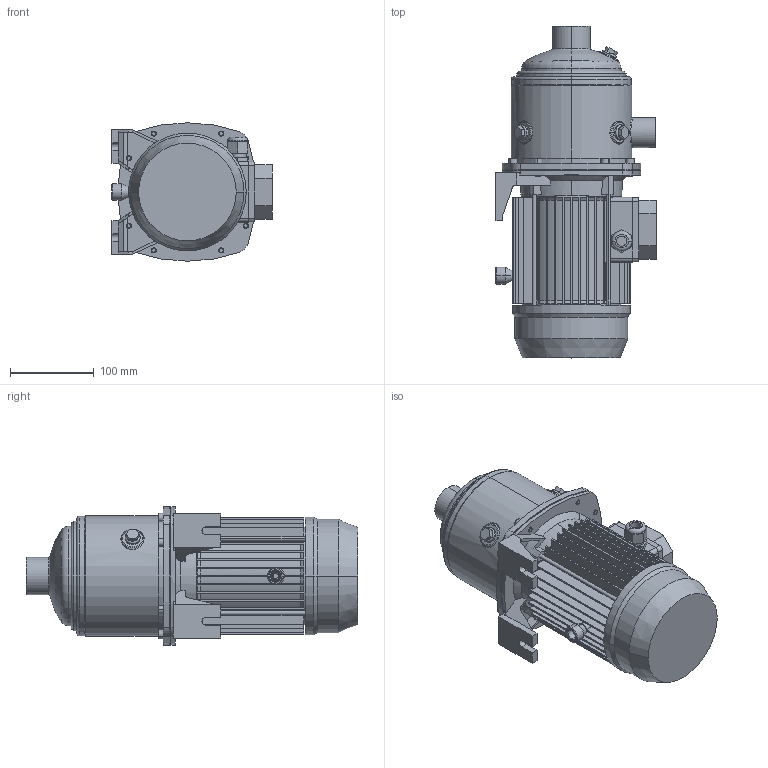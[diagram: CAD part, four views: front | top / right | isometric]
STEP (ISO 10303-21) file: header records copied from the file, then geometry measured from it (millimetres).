
FILE_DESCRIPTION((''),'2;1');
FILE_NAME('MATRIX_5-4T_0_9_IE3_ASM','2018-06-01T',('rosa'),('"Ebara Pumps Europe +39.444.706811"'),'PRO/ENGINEER BY PARAMETRIC TECHNOLOGY CORPORATION, 2012130','PRO/ENGINEER BY PARAMETRIC TECHNOLOGY CORPORATION, 2012130','');
FILE_SCHEMA(('AUTOMOTIVE_DESIGN { 1 0 10303 214 1 1 1 1 }'));
Length unit declared in the file: millimetre
Products named in the file (5): CORPO_POMPA_MATRIX_5-4; SUPPORTO_MATRIX_MEC_71; MEC_71X110_IE2; 72228; MATRIX_5-4T_0_9_IE3_ASM
Assembly tree (4 placements, depth 2):
  MATRIX_5-4T_0_9_IE3_ASM
    CORPO_POMPA_MATRIX_5-4
    SUPPORTO_MATRIX_MEC_71
    MEC_71X110_IE2
    72228
Bounding box: 191 x 395.8 x 165 mm (x, y, z)
Volume: 4011582.8 mm3; surface area: 493703.9 mm2
Topology: 4 solids, 4 shells, 724 faces, 1741 edges, 1073 vertices
Faces by surface type: plane 375, cylinder 186, cone 110, torus 37, bspline 14, sphere 2
Entity records: 28279 total; most frequent: CARTESIAN_POINT 5428, DIRECTION 3674, ORIENTED_EDGE 3482, EDGE_CURVE 1741, PRESENTATION_STYLE_ASSIGNMENT 1694, STYLED_ITEM 1694, CURVE_STYLE 1691, AXIS2_PLACEMENT_3D 1412
